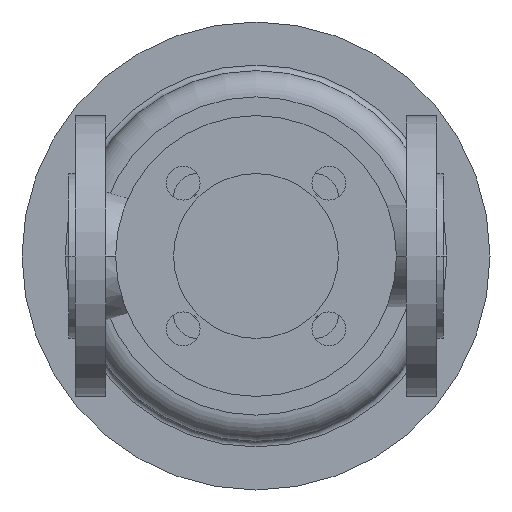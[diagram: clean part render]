
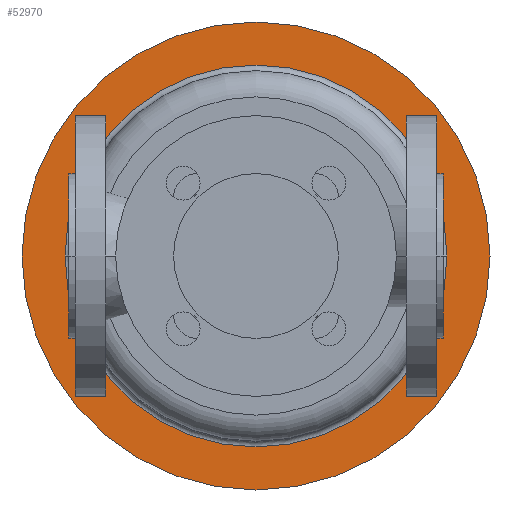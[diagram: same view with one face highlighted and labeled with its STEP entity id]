
A CAD part, front view. The second image highlights one B-rep face of the part: STEP entity #52970.
In plain terms, the highlighted planar face has unit normal (0, -1, 0).
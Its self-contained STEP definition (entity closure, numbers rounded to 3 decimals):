
#38000=CARTESIAN_POINT('',(-25.,418.5,0.));
#38010=VERTEX_POINT('',#38000);
#38170=CARTESIAN_POINT('',(225.,418.5,0.));
#38180=VERTEX_POINT('',#38170);
#38210=CARTESIAN_POINT('',(100.,418.5,0.));
#38220=DIRECTION('',(0.,1.,0.));
#38230=DIRECTION('',(1.,0.,0.));
#38240=AXIS2_PLACEMENT_3D('',#38210,#38220,#38230);
#38250=CIRCLE('',#38240,125.);
#38260=EDGE_CURVE('',#38010,#38180,#38250,.T.);
#38430=CARTESIAN_POINT('',(-2.,418.5,0.));
#38440=VERTEX_POINT('',#38430);
#38470=CARTESIAN_POINT('',(100.,418.5,0.));
#38480=DIRECTION('',(0.,1.,0.));
#38490=DIRECTION('',(1.,0.,0.));
#38500=AXIS2_PLACEMENT_3D('',#38470,#38480,#38490);
#38510=CIRCLE('',#38500,102.);
#38520=CARTESIAN_POINT('',(202.,418.5,0.));
#38530=VERTEX_POINT('',#38520);
#38540=EDGE_CURVE('',#38440,#38530,#38510,.T.);
#52780=CARTESIAN_POINT('',(213.5,418.5,0.));
#52790=DIRECTION('',(0.,-1.,0.));
#52800=DIRECTION('',(-1.,0.,0.));
#52810=AXIS2_PLACEMENT_3D('',#52780,#52790,#52800);
#52820=PLANE('',#52810);
#52830=EDGE_CURVE('',#38180,#38010,#38250,.T.);
#52840=ORIENTED_EDGE('',*,*,#52830,.F.);
#52850=ORIENTED_EDGE('',*,*,#38260,.F.);
#52860=EDGE_LOOP('',(#52850,#52840));
#52870=FACE_OUTER_BOUND('',#52860,.T.);
#52880=ORIENTED_EDGE('',*,*,#38540,.T.);
#52890=CARTESIAN_POINT('',(100.,418.5,-102.));
#52900=VERTEX_POINT('',#52890);
#52910=EDGE_CURVE('',#52900,#38440,#38510,.T.);
#52920=ORIENTED_EDGE('',*,*,#52910,.T.);
#52930=EDGE_CURVE('',#38530,#52900,#38510,.T.);
#52940=ORIENTED_EDGE('',*,*,#52930,.T.);
#52950=EDGE_LOOP('',(#52940,#52920,#52880));
#52960=FACE_BOUND('',#52950,.T.);
#52970=ADVANCED_FACE('',(#52870,#52960),#52820,.T.);
